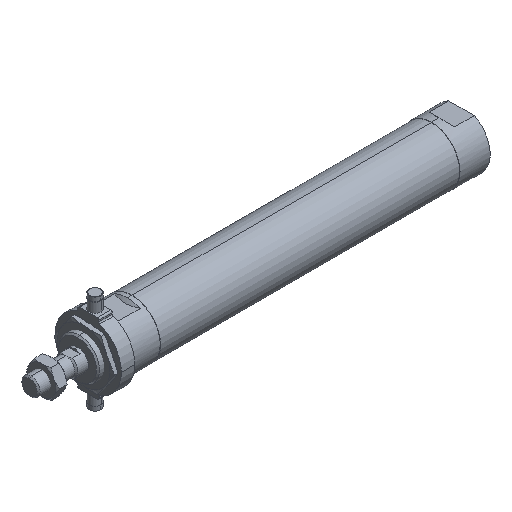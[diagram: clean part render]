
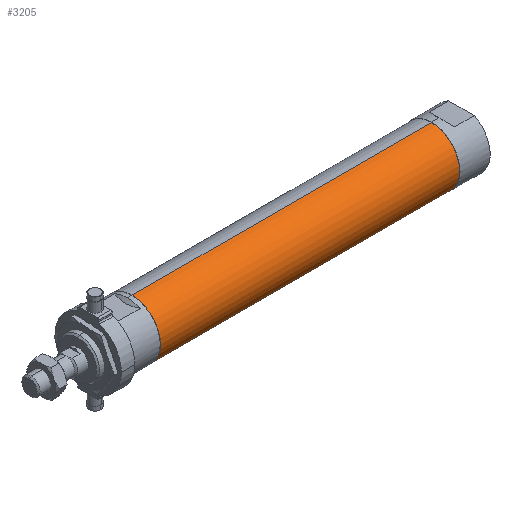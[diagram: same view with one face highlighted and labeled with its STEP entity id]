
A CAD part, isometric view. The second image highlights one B-rep face of the part: STEP entity #3205.
In plain terms, the highlighted cylindrical face has radius 18.8 mm (diameter 37.6 mm), a partial arc.
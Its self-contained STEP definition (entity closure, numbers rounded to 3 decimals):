
#13 = ORIENTED_EDGE ( 'NONE', *, *, #815, .F. ) ;
#17 = VECTOR ( 'NONE', #3080, 1000. ) ;
#132 = VERTEX_POINT ( 'NONE', #687 ) ;
#323 = AXIS2_PLACEMENT_3D ( 'NONE', #1855, #481, #3938 ) ;
#326 = CYLINDRICAL_SURFACE ( 'NONE', #323, 18.8 ) ;
#481 = DIRECTION ( 'NONE',  ( -1., 0., 0. ) ) ;
#558 = ORIENTED_EDGE ( 'NONE', *, *, #3102, .F. ) ;
#640 = CARTESIAN_POINT ( 'NONE',  ( -1.784, 0., 18.8 ) ) ;
#687 = CARTESIAN_POINT ( 'NONE',  ( 68., 0., 18.8 ) ) ;
#815 = EDGE_CURVE ( 'NONE', #3267, #3594, #2539, .T. ) ;
#842 = CARTESIAN_POINT ( 'NONE',  ( 267., 0., -18.8 ) ) ;
#930 = ORIENTED_EDGE ( 'NONE', *, *, #1663, .T. ) ;
#1394 = CARTESIAN_POINT ( 'NONE',  ( 267., 0., 18.8 ) ) ;
#1417 = EDGE_LOOP ( 'NONE', ( #13, #4465, #930, #558 ) ) ;
#1663 = EDGE_CURVE ( 'NONE', #2362, #132, #2818, .T. ) ;
#1828 = CARTESIAN_POINT ( 'NONE',  ( -1.784, 0., -18.8 ) ) ;
#1829 = VECTOR ( 'NONE', #2184, 1000. ) ;
#1855 = CARTESIAN_POINT ( 'NONE',  ( -1.784, 0., 0. ) ) ;
#2184 = DIRECTION ( 'NONE',  ( -1., 0., 0. ) ) ;
#2200 = AXIS2_PLACEMENT_3D ( 'NONE', #2766, #3440, #3127 ) ;
#2307 = FACE_OUTER_BOUND ( 'NONE', #1417, .T. ) ;
#2362 = VERTEX_POINT ( 'NONE', #1394 ) ;
#2472 = DIRECTION ( 'NONE',  ( -1., 0., 0. ) ) ;
#2539 = LINE ( 'NONE', #1828, #1829 ) ;
#2766 = CARTESIAN_POINT ( 'NONE',  ( 267., 0., 0. ) ) ;
#2818 = LINE ( 'NONE', #640, #17 ) ;
#2851 = DIRECTION ( 'NONE',  ( 0., 0., 1. ) ) ;
#3080 = DIRECTION ( 'NONE',  ( -1., 0., 0. ) ) ;
#3102 = EDGE_CURVE ( 'NONE', #3594, #132, #4325, .T. ) ;
#3127 = DIRECTION ( 'NONE',  ( 0., 0., 1. ) ) ;
#3205 = ADVANCED_FACE ( 'NONE', ( #2307 ), #326, .T. ) ;
#3267 = VERTEX_POINT ( 'NONE', #842 ) ;
#3407 = AXIS2_PLACEMENT_3D ( 'NONE', #3915, #2472, #2851 ) ;
#3440 = DIRECTION ( 'NONE',  ( -1., 0., 0. ) ) ;
#3594 = VERTEX_POINT ( 'NONE', #4528 ) ;
#3915 = CARTESIAN_POINT ( 'NONE',  ( 68., 0., 0. ) ) ;
#3938 = DIRECTION ( 'NONE',  ( 0., 0., 1. ) ) ;
#4325 = CIRCLE ( 'NONE', #3407, 18.8 ) ;
#4340 = EDGE_CURVE ( 'NONE', #3267, #2362, #4487, .T. ) ;
#4465 = ORIENTED_EDGE ( 'NONE', *, *, #4340, .T. ) ;
#4487 = CIRCLE ( 'NONE', #2200, 18.8 ) ;
#4528 = CARTESIAN_POINT ( 'NONE',  ( 68., 0., -18.8 ) ) ;
